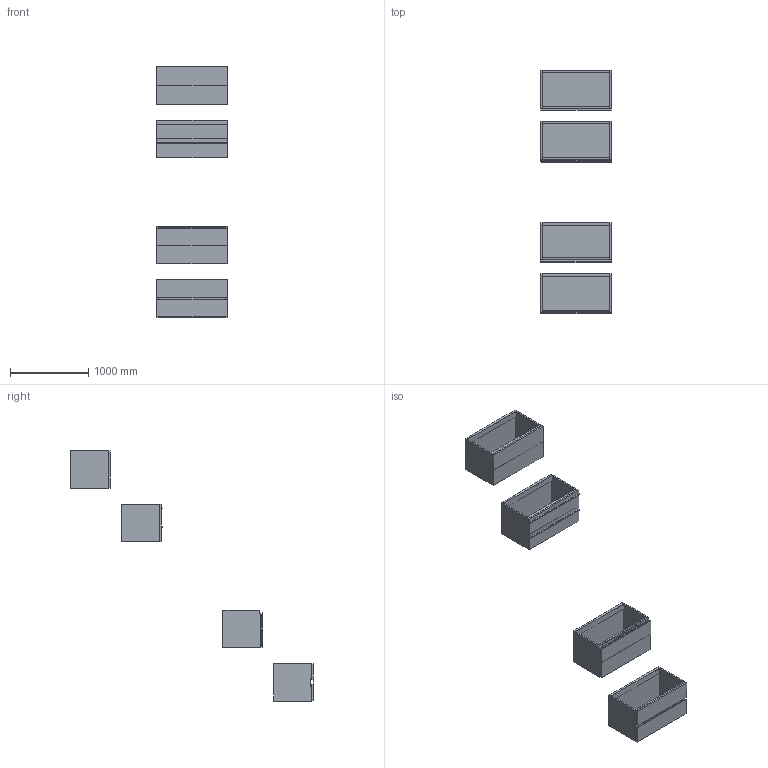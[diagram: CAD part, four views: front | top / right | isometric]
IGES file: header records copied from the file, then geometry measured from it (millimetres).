
Start section: Data from Parasolid IGES Translator 19.0.9, Copyright(c) 2006 Siemens PL M Software. All Rights Reserved.
Global section: file name: noorth-SI-H 48 D 51 W 90_8535.igs; native system: By Siemens PLM Incorporated; preprocessor: XPlus GENERIC/IGES 19.0.9; author: Noname; organization: Noname; date: 20200601.114049; units: metre
Bounding box: 900 x 3107.1 x 3200.01 mm (x, y, z)
Volume: 102661703.9 mm3; surface area: 15861007.2 mm2
Topology: 37 solids, 37 shells, 342 faces, 748 edges, 460 vertices
Faces by surface type: plane 254, extrusion 36, bspline 32, cylinder 20
